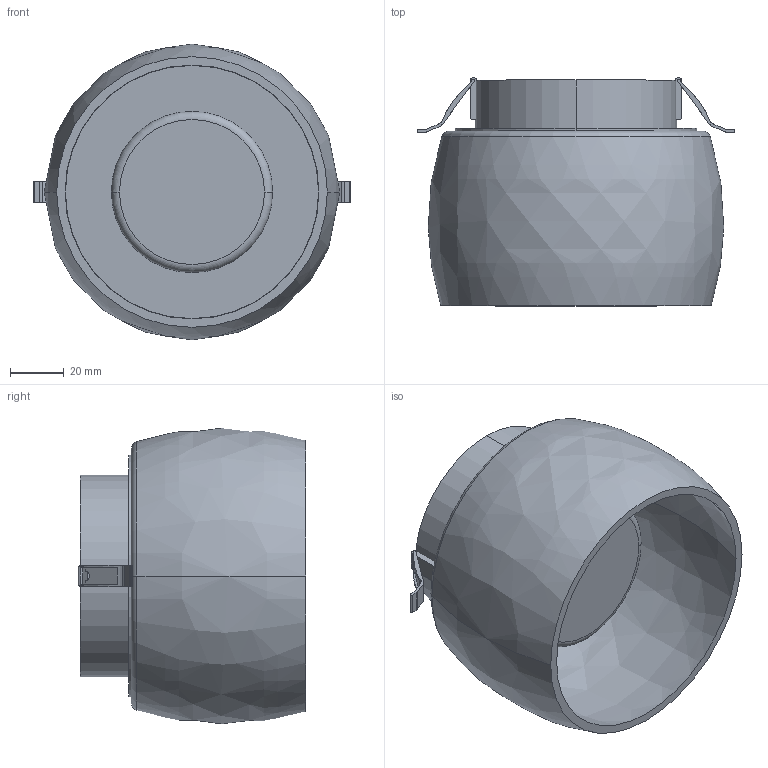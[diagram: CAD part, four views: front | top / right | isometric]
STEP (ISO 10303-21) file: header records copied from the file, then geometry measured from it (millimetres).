
FILE_DESCRIPTION (( 'STEP AP214' ), '1' );
FILE_NAME ('Glass_empotrable.STEP', '2026-03-10T12:51:36', ( '' ), ( '' ), 'SwSTEP 2.0', 'SolidWorks 2023', '' );
FILE_SCHEMA (( 'AUTOMOTIVE_DESIGN' ));
Length unit declared in the file: millimetre
Products named in the file (3): glass_shade; Glass_empotrable; floron_empotrable
Assembly tree (2 placements, depth 2):
  Glass_empotrable
    floron_empotrable
    glass_shade
Bounding box: 118.33 x 84.8 x 110.02 mm (x, y, z)
Volume: 181399.5 mm3; surface area: 88978.1 mm2
Topology: 8 solids, 8 shells, 116 faces, 294 edges, 194 vertices
Faces by surface type: plane 62, cylinder 44, bspline 6, torus 4
Entity records: 3926 total; most frequent: CARTESIAN_POINT 921, DIRECTION 612, ORIENTED_EDGE 588, EDGE_CURVE 294, AXIS2_PLACEMENT_3D 219, VERTEX_POINT 194, VECTOR 174, LINE 174
